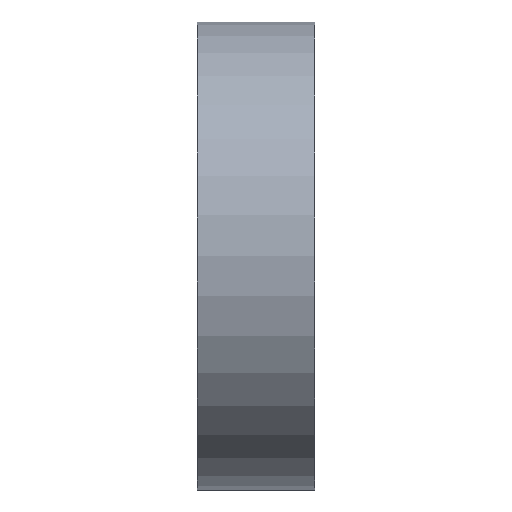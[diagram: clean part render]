
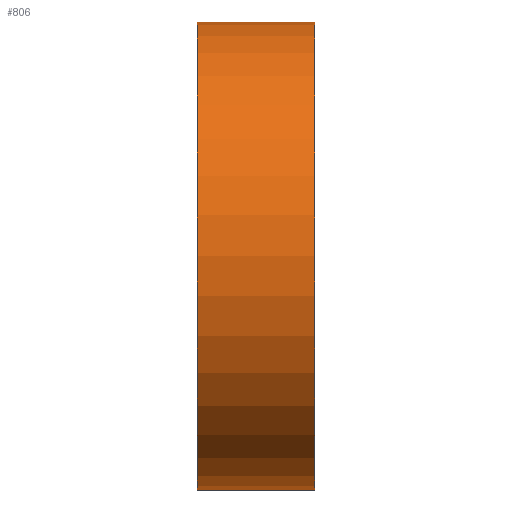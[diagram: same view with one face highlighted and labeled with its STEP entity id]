
A CAD part, top view. The second image highlights one B-rep face of the part: STEP entity #806.
In plain terms, the highlighted cylindrical face has radius 24 mm (diameter 48 mm), a full revolution.
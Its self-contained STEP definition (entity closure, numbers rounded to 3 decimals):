
#35=CYLINDRICAL_SURFACE('',#869,24.);
#69=CIRCLE('',#868,24.);
#70=CIRCLE('',#870,24.);
#101=LINE('',#2211,#126);
#126=VECTOR('',#1020,24.);
#182=FACE_OUTER_BOUND('',#232,.T.);
#232=EDGE_LOOP('',(#740,#741,#742,#743));
#378=VERTEX_POINT('',#2206);
#379=VERTEX_POINT('',#2209);
#502=EDGE_CURVE('',#378,#378,#69,.T.);
#503=EDGE_CURVE('',#379,#379,#70,.T.);
#504=EDGE_CURVE('',#379,#378,#101,.T.);
#740=ORIENTED_EDGE('',*,*,#503,.F.);
#741=ORIENTED_EDGE('',*,*,#504,.T.);
#742=ORIENTED_EDGE('',*,*,#502,.F.);
#743=ORIENTED_EDGE('',*,*,#504,.F.);
#806=ADVANCED_FACE('',(#182),#35,.T.);
#868=AXIS2_PLACEMENT_3D('',#2207,#1014,#1015);
#869=AXIS2_PLACEMENT_3D('',#2208,#1016,#1017);
#870=AXIS2_PLACEMENT_3D('',#2210,#1018,#1019);
#1014=DIRECTION('center_axis',(-1.,0.,0.));
#1015=DIRECTION('ref_axis',(0.,0.766,-0.643));
#1016=DIRECTION('center_axis',(1.,0.,0.));
#1017=DIRECTION('ref_axis',(0.,0.766,-0.643));
#1018=DIRECTION('center_axis',(1.,0.,0.));
#1019=DIRECTION('ref_axis',(0.,0.766,-0.643));
#1020=DIRECTION('',(-1.,0.,0.));
#2206=CARTESIAN_POINT('',(116.,17.615,30.927));
#2207=CARTESIAN_POINT('Origin',(116.,36.,15.5));
#2208=CARTESIAN_POINT('Origin',(122.,36.,15.5));
#2209=CARTESIAN_POINT('',(128.,17.615,30.927));
#2210=CARTESIAN_POINT('Origin',(128.,36.,15.5));
#2211=CARTESIAN_POINT('',(122.,17.615,30.927));
